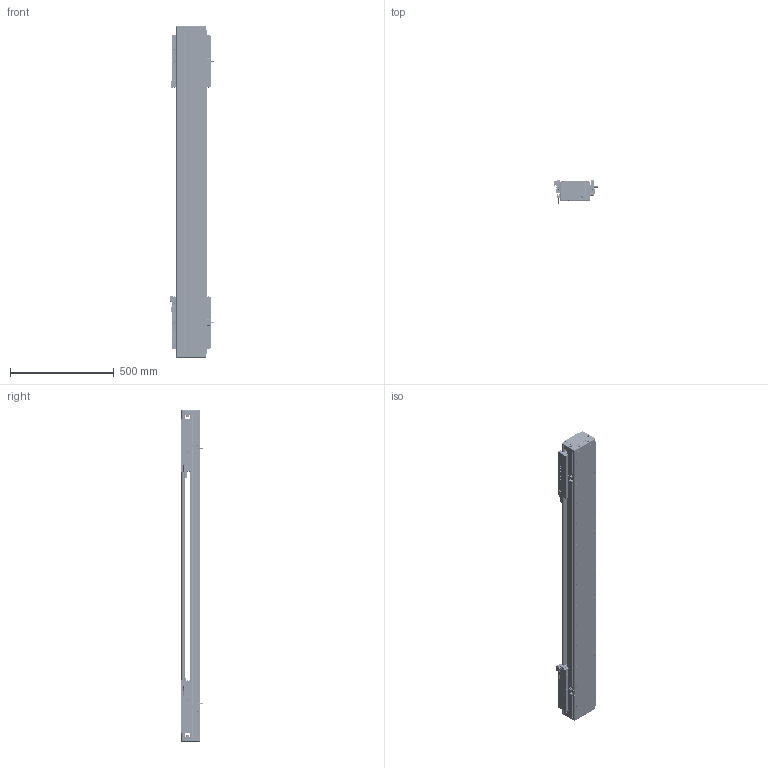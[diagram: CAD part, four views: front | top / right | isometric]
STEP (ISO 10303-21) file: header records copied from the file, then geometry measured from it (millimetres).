
FILE_DESCRIPTION (( 'STEP AP203' ), '1' );
FILE_NAME ('DA-C145-2-C3-T980-C010-0.2 眻盄萇儂.STEP', '2025-08-13T10:18:21', ( '' ), ( '' ), 'SwSTEP 2.0', 'SolidWorks 2019', '' );
FILE_SCHEMA (( 'CONFIG_CONTROL_DESIGN' ));
Length unit declared in the file: millimetre
Products named in the file (35): 葩璃 DA145-C3-DP-B-00 菜えB^CU145-W 幗紩賑怢; 葩璃 PM-T45^DA-C145-2-C3-T-C010-0.2; CU145-W-00 珨极趙賑雄怢啣-1; 复件 DA145-C3-DK-00 挡块^CU145-W 滚珠滑台; 葩璃 DA145-C3-DP-A-00 菜えA^CU145-W 幗紩賑怢; 复件 DA95-MFP-01 密封片^CU145-W 滚珠滑台; DKW-KGZ-ZJ-00 中间光电开关支架; 复件 DA145-GYP-00 光电感应片^DA-C145-2-C3-T-C010-0.2; 葩璃 PM-Y65^DA-C145-2-C3-T-C010-0.2; 葩璃 DA95-GT-T-00^IU-CU145-L 菁釱絳寢; 葩璃 鞠褒情蹟譫 M3^DA-C145-2-C3-T-C010-0.2; 复件 DA95-DB-00  挡板^CU145-W 滚珠滑台; 复件 DA145-C3-YB-B-00 压板B^CU145-W 滚珠滑台; 66245-CU145-HT-W-00 賑雄怢啣(3D芞祧)(00); CU145-W-00 珨极趙賑雄怢啣; 复件 纯铜油杯 6x6mm^CU145-W 滚珠滑台; 复件 DA145-C3-YB-A-00 压板A^CU145-W 滚珠滑台; CU145-W 幗紩賑怢; 复件 内六角平端紧定螺钉 GB.T77-2000 M5×10^CU145-W 滚珠滑台; 葩璃 CKM03-W060-C1C2-TP-0.2^DA-C145-2-C3-T-C010-0.2; 葩璃 CKMA01-W060-TRL^DA-C145-2-C3-T-C010-0.2; 葩璃 DA145-T-003-00 裔啣^DA-C145-2-C3-T-C010-0.2; IU-CU145-L 菁釱絳寢; TAY01-M8; DKW168-HXJ-ZJ-00 笢潔滅袉砎蝶; IU-CU145-L-00 菁釱(L1560); 葩璃 DMA-010-0.2 黍杅芛^DA-C145-2-C3-T-C010-0.2; 葩璃 DA145-DG-H-N-00 傷裔^DA-C145-2-C3-T-C010-0.2; DA-C145-2-C3-T980-C010-0.2 眻盄萇儂; 葩璃 DA95-HXJ-00 遣喳砎蝶^DA-C145-2-C3-T-C010-0.2; CU145-W 幗紩賑怢-1; DKW-GYP-ZJ-00 笢潔嫖萇覜茼え; 复件 半圆头内六角螺钉 M3×6^CU145-W 滚珠滑台; 葩璃 XD-U-02L 棠掑喜^DA-C145-2-C3-T-C010-0.2; 复件 DA95-HK-GT-00 滑块钢轨^CU145-W-00 一体化滑动台板
Assembly tree (175 placements, depth 4):
  DA-C145-2-C3-T980-C010-0.2 眻盄萇儂
    IU-CU145-L 菁釱絳寢
      IU-CU145-L-00 菁釱(L1560)
      葩璃 DA95-GT-T-00^IU-CU145-L 菁釱絳寢  x4
    CU145-W 幗紩賑怢
      CU145-W-00 珨极趙賑雄怢啣
        66245-CU145-HT-W-00 賑雄怢啣(3D芞祧)(00)
        复件 DA95-HK-GT-00 滑块钢轨^CU145-W-00 一体化滑动台板  x8
      复件 DA95-MFP-01 密封片^CU145-W 滚珠滑台  x8
      复件 DA95-DB-00  挡板^CU145-W 滚珠滑台  x8
      复件 内六角平端紧定螺钉 GB.T77-2000 M5×10^CU145-W 滚珠滑台  x4
      复件 纯铜油杯 6x6mm^CU145-W 滚珠滑台  x4
      复件 半圆头内六角螺钉 M3×6^CU145-W 滚珠滑台  x16
      复件 DA145-C3-DK-00 挡块^CU145-W 滚珠滑台  x4
      葩璃 DA145-C3-DP-B-00 菜えB^CU145-W 幗紩賑怢  x2
      复件 DA145-C3-YB-B-00 压板B^CU145-W 滚珠滑台  x2
      葩璃 DA145-C3-DP-A-00 菜えA^CU145-W 幗紩賑怢  x3
      复件 DA145-C3-YB-A-00 压板A^CU145-W 滚珠滑台  x3
      TAY01-M8  x4
    CU145-W 幗紩賑怢-1
      CU145-W-00 珨极趙賑雄怢啣-1
        66245-CU145-HT-W-00 賑雄怢啣(3D芞祧)(00)
        复件 DA95-HK-GT-00 滑块钢轨^CU145-W-00 一体化滑动台板  x8
      复件 DA95-MFP-01 密封片^CU145-W 滚珠滑台  x8
      复件 DA95-DB-00  挡板^CU145-W 滚珠滑台  x8
      复件 内六角平端紧定螺钉 GB.T77-2000 M5×10^CU145-W 滚珠滑台  x4
      复件 纯铜油杯 6x6mm^CU145-W 滚珠滑台  x4
      复件 半圆头内六角螺钉 M3×6^CU145-W 滚珠滑台  x16
      复件 DA145-C3-DK-00 挡块^CU145-W 滚珠滑台  x4
      葩璃 DA145-C3-DP-B-00 菜えB^CU145-W 幗紩賑怢  x2
      复件 DA145-C3-YB-B-00 压板B^CU145-W 滚珠滑台  x2
      葩璃 DA145-C3-DP-A-00 菜えA^CU145-W 幗紩賑怢  x3
      复件 DA145-C3-YB-A-00 压板A^CU145-W 滚珠滑台  x3
      TAY01-M8  x4
    葩璃 CKMA01-W060-TRL^DA-C145-2-C3-T-C010-0.2
    葩璃 PM-T45^DA-C145-2-C3-T-C010-0.2  x4
    葩璃 XD-U-02L 棠掑喜^DA-C145-2-C3-T-C010-0.2
    葩璃 DA145-DG-H-N-00 傷裔^DA-C145-2-C3-T-C010-0.2  x2
    葩璃 DA145-T-003-00 裔啣^DA-C145-2-C3-T-C010-0.2
    葩璃 DA95-HXJ-00 遣喳砎蝶^DA-C145-2-C3-T-C010-0.2  x4
    葩璃 CKM03-W060-C1C2-TP-0.2^DA-C145-2-C3-T-C010-0.2  x2
    葩璃 DMA-010-0.2 黍杅芛^DA-C145-2-C3-T-C010-0.2  x2
    复件 DA145-GYP-00 光电感应片^DA-C145-2-C3-T-C010-0.2  x2
    DKW-GYP-ZJ-00 笢潔嫖萇覜茼え
    DKW-KGZ-ZJ-00 中间光电开关支架
    葩璃 PM-Y65^DA-C145-2-C3-T-C010-0.2
    葩璃 鞠褒情蹟譫 M3^DA-C145-2-C3-T-C010-0.2  x8
    DKW168-HXJ-ZJ-00 笢潔滅袉砎蝶
Bounding box: 213.7 x 108.45 x 1600 mm (x, y, z)
Volume: 11339468 mm3; surface area: 3260269 mm2
Topology: 171 solids, 235 shells, 7081 faces, 18622 edges, 11447 vertices
Faces by surface type: plane 2938, cylinder 2855, cone 1120, torus 152, sphere 8, bspline 8
Entity records: 116369 total; most frequent: CARTESIAN_POINT 30482, ORIENTED_EDGE 16408, DIRECTION 16245, EDGE_CURVE 8204, AXIS2_PLACEMENT_3D 5919, VERTEX_POINT 5296, VECTOR 4407, LINE 4407
